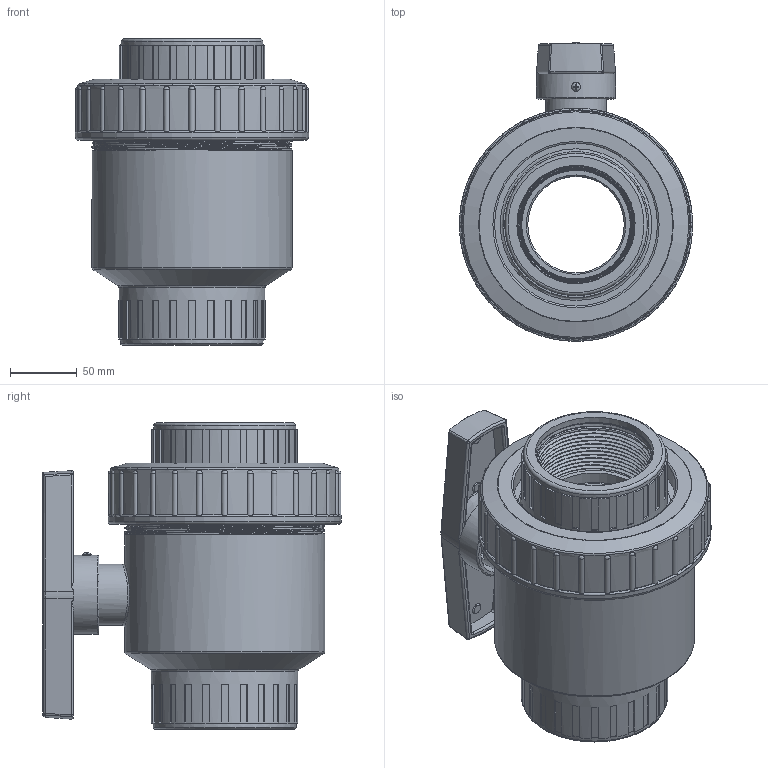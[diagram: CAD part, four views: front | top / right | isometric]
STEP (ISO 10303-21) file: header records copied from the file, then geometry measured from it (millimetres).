
FILE_DESCRIPTION(/* description */ ('Alibre Inc.'),/* implementation_level */ '2;1');
FILE_NAME(/* name */ 'export0',/* time_stamp */ '2017-08-28T10:04:08-04:00',/* author */ (''),/* organization */ (''),/* preprocessor_version */ 'ST-DEVELOPER v14',/* originating_system */ 'Alibre',/* authorisation */ '');
FILE_SCHEMA (('CONFIG_CONTROL_DESIGN'));
Length unit declared in the file: centimetre
Products named in the file (14): ID_1; ID_2; ID_3; ID_4; ID_5; ID_6; ID_7; ID_8; ID_9; ID_10
Bounding box: 175.31 x 224.39 x 230.14 mm (x, y, z)
Volume: 2016632.5 mm3; surface area: 526864.9 mm2
Topology: 13 solids, 14 shells, 901 faces, 2458 edges, 1609 vertices
Faces by surface type: plane 428, cylinder 192, bspline 111, cone 100, torus 57, sphere 13
Full cylindrical faces by diameter (mm): 26.348 x1, 31.039 x2, 31.242 x1, 39.116 x1, 45.974 x1, 52.324 x1, 59.436 x1, 72.466 x1, 74.473 x1, 74.676 x1, 76.556 x2, 78.988 x1, 86.944 x1, 88.9 x4, 98.374 x1, 106.502 x1, 106.934 x1, 107.696 x1, 109.474 x1, 110.236 x1, 117.119 x1, 117.424 x1, 122.471 x1, 124.282 x3, 125.476 x1, 140.462 x1, 146.558 x14, 150.368 x13, 171.45 x1, 175.311 x1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
Entity records: 126173 total; most frequent: CARTESIAN_POINT 105733, ORIENTED_EDGE 4524, DIRECTION 2939, EDGE_CURVE 2262, VERTEX_POINT 1527, AXIS2_PLACEMENT_3D 1155, VECTOR 1031, LINE 1031
